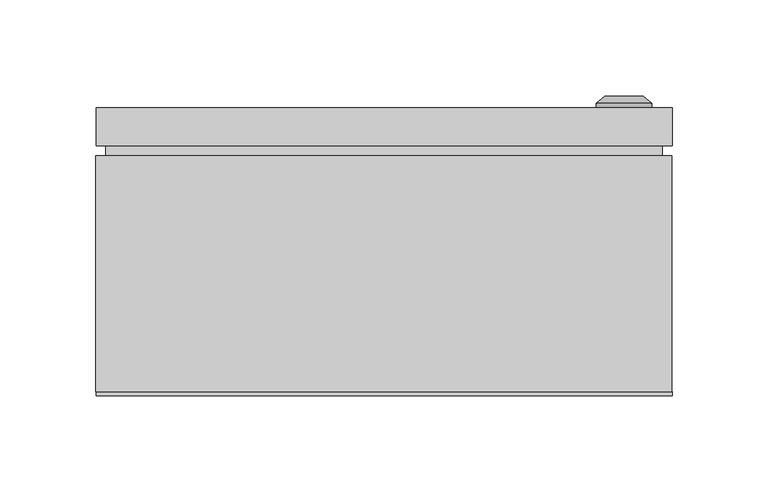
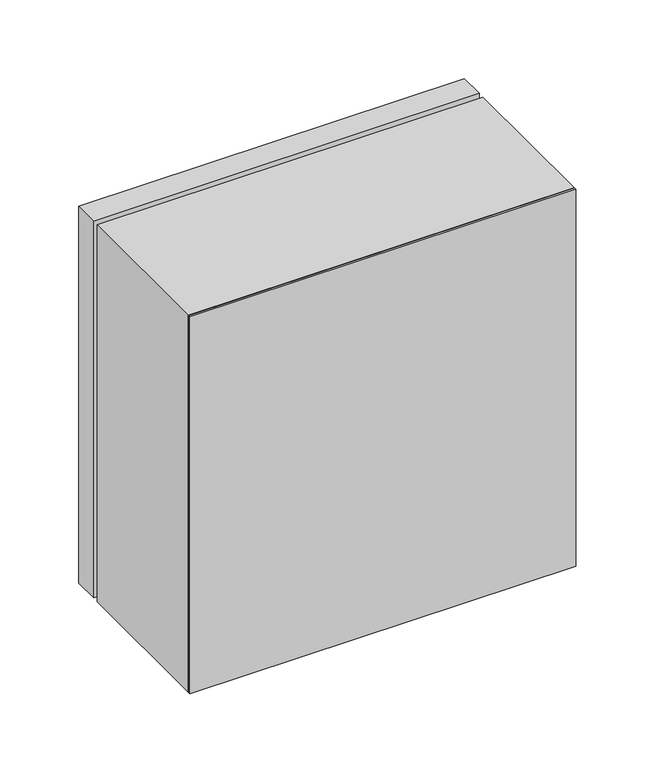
"""IFC4 building model written with IfcOpenShell, lengths in millimetres: proxy geometry, ЩУ-1ф_1-1-6_IP66 : ЩУ-1ф/1-1-6_IP66."""

import ifcopenshell
import ifcopenshell.guid

model = None  # the IFC model being written
_history = None  # IfcOwnerHistory: only IFC2X3 demands one
_inside = {}  # id of a spatial element -> (the spatial element, [elements in it])
_under = {}  # id of a project, library or spatial element -> (it, [spatial elements below it])
_declared = {}  # id of a project -> (the project, [libraries it declares])
_typed = {}  # id of a type object -> (the type object, [elements of that type])
_made_of = {}  # id of a material, layer set ... -> (it, [elements and type objects made of it])


def new_model(schema):
    """Start an empty IFC model of exactly this schema.

    Asked for "IFC4X3", IfcOpenShell would pick the latest addendum, in which some entities
    have other attributes; the version numbers below select the first issue.
    IFC2X3 requires an IfcOwnerHistory on every rooted entity: one is made here for all.
    """
    global model, _history
    if schema == "IFC4X3":
        model = ifcopenshell.file(schema_version=(4, 3, 0, 0))
    else:
        model = ifcopenshell.file(schema=schema)
    _inside.clear()
    _under.clear()
    _declared.clear()
    _typed.clear()
    _made_of.clear()
    _history = None
    if model.schema == "IFC2X3":
        org = make("IfcOrganization", Name="unknown")
        user = make(
            "IfcPersonAndOrganization",
            ThePerson=make("IfcPerson", FamilyName="unknown"),
            TheOrganization=org,
        )
        app = make(
            "IfcApplication",
            ApplicationDeveloper=org,
            Version="unknown",
            ApplicationFullName="unknown",
            ApplicationIdentifier="unknown",
        )
        _history = make(
            "IfcOwnerHistory",
            OwningUser=user,
            OwningApplication=app,
            ChangeAction="ADDED",
            CreationDate=0,
        )
    return model


def make(cls, **values):
    """One entity of the class cls with the attributes given. An attribute that is None is left unset."""
    return model.create_entity(
        cls, **{name: value for name, value in values.items() if value is not None}
    )


def rooted(cls, **values):
    """An entity with a GlobalId (a new one), such as an element, a storey or a relation."""
    return make(cls, GlobalId=ifcopenshell.guid.new(), OwnerHistory=_history, **values)


def si_unit(unit_type, name, prefix=None):
    """IfcSIUnit, for example si_unit("LENGTHUNIT", "METRE", prefix="MILLI")."""
    return make("IfcSIUnit", UnitType=unit_type, Prefix=prefix, Name=name)


def assignment(units):
    """IfcUnitAssignment: the units of a project."""
    return None if units is None else make("IfcUnitAssignment", Units=units)


def point(xyz):
    """IfcCartesianPoint."""
    return None if xyz is None else make("IfcCartesianPoint", Coordinates=xyz)


def direction(xyz):
    """IfcDirection."""
    return None if xyz is None else make("IfcDirection", DirectionRatios=xyz)


def frame(location, z_axis=None, x_axis=None):
    """IfcAxis2Placement3D, a coordinate frame: its origin and axes. An axis left out is left unset."""
    return make(
        "IfcAxis2Placement3D",
        Location=point(location),
        Axis=direction(z_axis),
        RefDirection=direction(x_axis),
    )


def origin():
    """The frame at (0, 0, 0) with its axes left unset."""
    return frame((0.0, 0.0, 0.0))


def origin_with_axes():
    """The frame at (0, 0, 0) with the z axis (0, 0, 1) and the x axis (1, 0, 0) written out."""
    return frame((0.0, 0.0, 0.0), z_axis=(0.0, 0.0, 1.0), x_axis=(1.0, 0.0, 0.0))


def place(relative_to, where):
    """IfcLocalPlacement: puts the frame where relative to a parent placement (None: the world)."""
    return make(
        "IfcLocalPlacement", PlacementRelTo=relative_to, RelativePlacement=where
    )


def context(
    kind, dimensions, precision=None, world=None, true_north=None, identifier=None
):
    """IfcGeometricRepresentationContext, for example the 3D "Model" context."""
    return make(
        "IfcGeometricRepresentationContext",
        ContextIdentifier=identifier,
        ContextType=kind,
        CoordinateSpaceDimension=dimensions,
        Precision=precision,
        WorldCoordinateSystem=world,
        TrueNorth=true_north,
    )


def project(units=None, contexts=None):
    """IfcProject with its units and contexts."""
    return rooted(
        "IfcProject",
        Name="project",
        RepresentationContexts=contexts,
        UnitsInContext=assignment(units),
    )


def spatial(cls, under=None, at=None, **own):
    """A site, building, storey or space (cls), placed at a placement, below another one or the project."""
    s = rooted(cls, ObjectPlacement=at, **own)
    if under is not None:
        _under.setdefault(under.id(), (under, []))[1].append(s)
    return s


def polyline(points):
    """IfcPolyline through the points."""
    return make("IfcPolyline", Points=[point(p) for p in points])


def circle_curve(where, radius):
    """IfcCircle in the frame where."""
    return make("IfcCircle", Position=where, Radius=radius)


def outline(outer, holes=None, kind="AREA"):
    """IfcArbitraryClosedProfileDef: a profile drawn as a closed curve; with holes, ...WithVoids."""
    if holes is None:
        return make("IfcArbitraryClosedProfileDef", ProfileType=kind, OuterCurve=outer)
    return make(
        "IfcArbitraryProfileDefWithVoids",
        ProfileType=kind,
        OuterCurve=outer,
        InnerCurves=holes,
    )


def extrude(swept, where, along, depth):
    """IfcExtrudedAreaSolid: the profile swept, set in the frame where, extruded along a direction by depth."""
    return make(
        "IfcExtrudedAreaSolid",
        SweptArea=swept,
        Position=where,
        ExtrudedDirection=direction(along),
        Depth=depth,
    )


def shape(context_of_items, identifier, shape_type, items):
    """IfcShapeRepresentation: the items that make up one representation, for example the "Body"."""
    return make(
        "IfcShapeRepresentation",
        ContextOfItems=context_of_items,
        RepresentationIdentifier=identifier,
        RepresentationType=shape_type,
        Items=items,
    )


def source(mapping_origin, context_of_items, identifier, shape_type, items):
    """IfcRepresentationMap: a shape defined once, which mapped items show again and again."""
    return make(
        "IfcRepresentationMap",
        MappingOrigin=mapping_origin,
        MappedRepresentation=shape(context_of_items, identifier, shape_type, items),
    )


def transform(
    local_origin,
    x_axis=None,
    y_axis=None,
    z_axis=None,
    scale=None,
    scale2=None,
    scale3=None,
    uniform=True,
):
    """IfcCartesianTransformationOperator3D, or its non-uniform kind. x_axis, y_axis, z_axis: its Axis1, 2, 3."""
    if uniform:
        return make(
            "IfcCartesianTransformationOperator3D",
            Axis1=direction(x_axis),
            Axis2=direction(y_axis),
            LocalOrigin=point(local_origin),
            Scale=scale,
            Axis3=direction(z_axis),
        )
    return make(
        "IfcCartesianTransformationOperator3DnonUniform",
        Axis1=direction(x_axis),
        Axis2=direction(y_axis),
        LocalOrigin=point(local_origin),
        Scale=scale,
        Axis3=direction(z_axis),
        Scale2=scale2,
        Scale3=scale3,
    )


def mapped(mapping_source, mapping_target):
    """IfcMappedItem: shows the shape of a source again, moved by a transform."""
    return make(
        "IfcMappedItem", MappingSource=mapping_source, MappingTarget=mapping_target
    )


def made_of(thing, what):
    """Note that an element or type object is made of a material, layer set ...; save() writes the relation."""
    if what is not None:
        _made_of.setdefault(what.id(), (what, []))[1].append(thing)
    return thing


def element(
    cls,
    number,
    at=None,
    inside=None,
    cuts=None,
    type_object=None,
    material=None,
    context=None,
    identifier="Body",
    shape_type=None,
    held_by="IfcProductDefinitionShape",
    body=None,
    shapes=None,
    **own,
):
    """One element of the class cls, such as IfcWall. Its Tag is "e" and its number.

    at: its placement. inside: the storey or other place that contains it. cuts: it is an
    opening in that element (IfcRelVoidsElement). A single representation is given by context,
    identifier, shape_type and body (its items); several are given by shapes. held_by: the class
    of the entity that holds the representations. save() writes the other relations.
    """
    e = rooted(cls, Tag="e%d" % number, ObjectPlacement=at, **own)
    if body is not None:
        shapes = [shape(context, identifier, shape_type, body)]
    if shapes is not None:
        e.Representation = make(held_by, Representations=shapes)
    if inside is not None:
        _inside.setdefault(inside.id(), (inside, []))[1].append(e)
    if cuts is not None:
        rooted(
            "IfcRelVoidsElement", RelatingBuildingElement=cuts, RelatedOpeningElement=e
        )
    if type_object is not None:
        _typed.setdefault(type_object.id(), (type_object, []))[1].append(e)
    return made_of(e, material)


def aggregate(whole, parts):
    """IfcRelAggregates: a whole, such as a stair, and the parts it consists of."""
    return rooted("IfcRelAggregates", RelatingObject=whole, RelatedObjects=parts)


def save(model, path):
    """Write the relations noted so far, then the file.

    IfcRelAggregates (storeys below a building ...), IfcRelContainedInSpatialStructure (elements
    in a storey), IfcRelDefinesByType, IfcRelAssociatesMaterial and IfcRelDeclares: one each for
    every whole, place, type object, material and project.
    """
    for whole, parts in _under.values():
        aggregate(whole, parts)
    for where, things in _inside.values():
        rooted(
            "IfcRelContainedInSpatialStructure",
            RelatedElements=things,
            RelatingStructure=where,
        )
    for kind, things in _typed.values():
        rooted("IfcRelDefinesByType", RelatedObjects=things, RelatingType=kind)
    for what, things in _made_of.values():
        rooted("IfcRelAssociatesMaterial", RelatedObjects=things, RelatingMaterial=what)
    for by, libraries in _declared.values():
        rooted("IfcRelDeclares", RelatingContext=by, RelatedDefinitions=libraries)
    model.write(path)


def plane_surface(at):
    """IfcPlane: the flat surface through the origin of the frame at, square to its z axis."""
    return make("IfcPlane", Position=at)


def cylinder_surface(at, radius):
    """IfcCylindricalSurface: all points at the distance radius from the z axis of the frame at."""
    return make("IfcCylindricalSurface", Position=at, Radius=radius)


def revolved_surface(curve, axis_point, axis_direction):
    """IfcSurfaceOfRevolution: the curve turned about the line through axis_point along axis_direction."""
    return make(
        "IfcSurfaceOfRevolution",
        SweptCurve=make("IfcArbitraryOpenProfileDef", ProfileType="CURVE", Curve=curve),
        AxisPosition=make("IfcAxis1Placement", Location=point(axis_point), Axis=direction(axis_direction)),
    )


def advanced_brep(points, edges, surfaces, faces):
    """IfcAdvancedBrep: a solid bounded by faces that lie on surfaces and meet in shared edges.

    An edge is (start, end): straight between two places in points (the first is 0);
    or (start, end, curve); or (start, end, curve, False) where it runs against its curve.
    A face is (place in surfaces, loops), or (place, loops, False) where it looks against
    its surface's normal. A loop lists edges by number (the first is 1), with a minus sign
    where the edge is run from its end to its start. The first loop is the outer one.
    """
    corners = [point(p) for p in points]
    vertices = [make("IfcVertexPoint", VertexGeometry=c) for c in corners]
    made = []
    for start, end, *more in edges:
        made.append(
            make(
                "IfcEdgeCurve",
                EdgeStart=vertices[start],
                EdgeEnd=vertices[end],
                EdgeGeometry=more[0] if more else make("IfcPolyline", Points=[corners[start], corners[end]]),
                SameSense=more[1] if len(more) > 1 else True,
            )
        )
    hull = []
    for where, loops, *sense in faces:
        bounds = []
        for j, loop in enumerate(loops):
            ring = [make("IfcOrientedEdge", EdgeElement=made[abs(k) - 1], Orientation=k > 0) for k in loop]
            bounds.append(
                make(
                    "IfcFaceOuterBound" if j == 0 else "IfcFaceBound",
                    Bound=make("IfcEdgeLoop", EdgeList=ring),
                    Orientation=True,
                )
            )
        hull.append(make("IfcAdvancedFace", Bounds=bounds, FaceSurface=surfaces[where], SameSense=sense[0] if sense else True))
    return make("IfcAdvancedBrep", Outer=make("IfcClosedShell", CfsFaces=hull))


def electrical_equipment_15b1d89e(model_context):
    return source(origin(), model_context, "Body", "SolidModel", [
        extrude(outline(polyline([(145.0, 125.0), (-145.0, 125.0), (-145.0, 130.0), (145.0, 130.0), (145.0, 125.0)])), frame((0.0, 0.0, 5.0), z_axis=(0.0, 0.0, 1.0), x_axis=(1.0, 0.0, 0.0)), (0.0, 0.0, 1.0), 300.0),
        extrude(outline(polyline([(150.0, 130.0), (-150.0, 130.0), (-150.0, 150.0), (150.0, 150.0), (150.0, 130.0)])), origin_with_axes(), (0.0, 0.0, 1.0), 310.0),
        advanced_brep(
        [(110.669873, 150.0, 152.5), (139.330127, 150.0, 152.5), (125.0, 150.0, 152.5), (110.669873, 152.366592, 152.5), (139.330127, 152.366592, 152.5), (115.0, 156.0, 152.5), (135.0, 156.0, 152.5), (123.1080471, 156.0, 152.5), (126.8919529, 156.0, 152.5), (123.1080471, 154.9822294, 152.5), (126.8919529, 154.9822294, 152.5), (125.0, 154.9822294, 152.5)],
        [
            (0, 1, circle_curve(frame((125.0, 150.0, 152.5), z_axis=(0.0, -1.0, 0.0), x_axis=(1.0, 0.0, 0.0)), 14.330127)),
            (1, 2),
            (2, 0),
            (1, 0, circle_curve(frame((125.0, 150.0, 152.5), z_axis=(0.0, -1.0, 0.0), x_axis=(1.0, 0.0, 0.0)), 14.330127)),
            (3, 4, circle_curve(frame((125.0, 152.366592, 152.5), z_axis=(0.0, -1.0, 0.0), x_axis=(1.0, 0.0, 0.0)), 14.330127)),
            (4, 1),
            (0, 3),
            (4, 3, circle_curve(frame((125.0, 152.366592, 152.5), z_axis=(0.0, -1.0, 0.0), x_axis=(1.0, 0.0, 0.0)), 14.330127)),
            (5, 6, circle_curve(frame((125.0, 156.0, 152.5), z_axis=(0.0, -1.0, 0.0), x_axis=(1.0, 0.0, 0.0)), 10.0)),
            (6, 4),
            (3, 5),
            (6, 5, circle_curve(frame((125.0, 156.0, 152.5), z_axis=(0.0, -1.0, 0.0), x_axis=(1.0, 0.0, 0.0)), 10.0)),
            (7, 8, circle_curve(frame((125.0, 156.0, 152.5), z_axis=(0.0, -1.0, 0.0), x_axis=(1.0, 0.0, 0.0)), 1.8919529)),
            (8, 6),
            (5, 7),
            (8, 7, circle_curve(frame((125.0, 156.0, 152.5), z_axis=(0.0, -1.0, 0.0), x_axis=(1.0, 0.0, 0.0)), 1.8919529)),
            (9, 10, circle_curve(frame((125.0, 154.9822294, 152.5), z_axis=(0.0, -1.0, 0.0), x_axis=(1.0, 0.0, 0.0)), 1.8919529)),
            (10, 8),
            (7, 9),
            (10, 9, circle_curve(frame((125.0, 154.9822294, 152.5), z_axis=(0.0, -1.0, 0.0), x_axis=(1.0, 0.0, 0.0)), 1.8919529)),
            (11, 10),
            (9, 11),
        ],
        [
            plane_surface(frame((125.0, 150.0, 152.5), z_axis=(0.0, -1.0, 0.0), x_axis=(1.0, 0.0, 0.0))),
            cylinder_surface(frame((125.0, 163.1348851, 152.5), z_axis=(0.0, 1.0, 0.0), x_axis=(1.0, 0.0, 0.0)), 14.330127),
            revolved_surface(polyline([(139.330127, 152.366592, 152.5), (135.0, 156.0, 152.5)]), (125.0, 163.1348851, 152.5), (0.0, 1.0, 0.0)),
            plane_surface(frame((125.0, 156.0, 152.5), z_axis=(0.0, 1.0, 0.0), x_axis=(1.0, 0.0, 0.0))),
            revolved_surface(polyline([(126.8919529, 156.0, 152.5), (126.8919529, 154.9822294, 152.5)]), (125.0, 163.1348851, 152.5), (0.0, 1.0, 0.0)),
            plane_surface(frame((125.0, 154.9822294, 152.5), z_axis=(0.0, 1.0, 0.0), x_axis=(1.0, 0.0, 0.0))),
        ],
        [
            (0, [[1, 2, 3]]),
            (0, [[4, -3, -2]]),
            (1, [[5, 6, -1, 7]]),
            (1, [[8, -7, -4, -6]]),
            (2, [[9, 10, -5, 11]]),
            (2, [[12, -11, -8, -10]]),
            (3, [[13, 14, -9, 15]]),
            (3, [[16, -15, -12, -14]]),
            (4, [[17, 18, -13, 19]]),
            (4, [[20, -19, -16, -18]]),
            (5, [[21, -17, 22]]),
            (5, [[-22, -20, -21]]),
        ],
    ),
        extrude(outline(polyline([(310.0, -150.0033905), (0.0, -150.0033905), (0.0, 149.9966095), (310.0, 149.9966095), (310.0, -150.0033905)]), holes=[polyline([(285.0, -125.0033905), (285.0, 124.9966095), (25.0, 124.9966095), (25.0, -125.0033905), (285.0, -125.0033905)])]), frame((0.0, 2.0, 0.0), z_axis=(0.0, 1.0, 0.0), x_axis=(0.0, 0.0, 1.0)), (0.0, 0.0, 1.0), 123.0),
        extrude(outline(polyline([(150.0, 0.0), (-150.0, 0.0), (-150.0, 2.0), (150.0, 2.0), (150.0, 0.0)])), origin_with_axes(), (0.0, 0.0, 1.0), 310.0),
    ])


if __name__ == "__main__":
    model = new_model("IFC4")
    model_context = context("Model", 3, world=origin())
    ifc_project = project(units=[si_unit("LENGTHUNIT", "METRE", prefix="MILLI")], contexts=[model_context])
    site = spatial("IfcSite", under=ifc_project)
    building = spatial("IfcBuilding", under=site)
    placement = place(None, origin())
    electrical_equipment_shape = electrical_equipment_15b1d89e(model_context)
    element("IfcBuildingElementProxy", 1, Name="ЩУ-1ф_1-1-6_IP66 : ЩУ-1ф/1-1-6_IP66", ObjectType="ЩУ-1ф_1-1-6_IP66 : ЩУ-1ф/1-1-6_IP66", at=placement, inside=building, context=model_context, shape_type="MappedRepresentation", body=[
        mapped(electrical_equipment_shape, transform((0.0, 0.0, 0.0), x_axis=(1.0, 0.0, 0.0), y_axis=(0.0, 1.0, 0.0), z_axis=(0.0, 0.0, 1.0))),
    ])
    save(model, "model.ifc")
